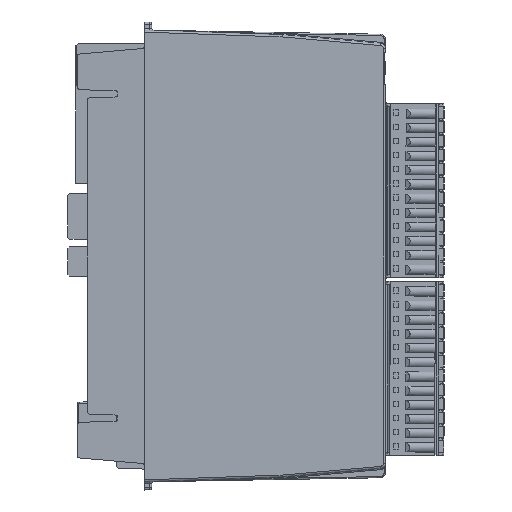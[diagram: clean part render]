
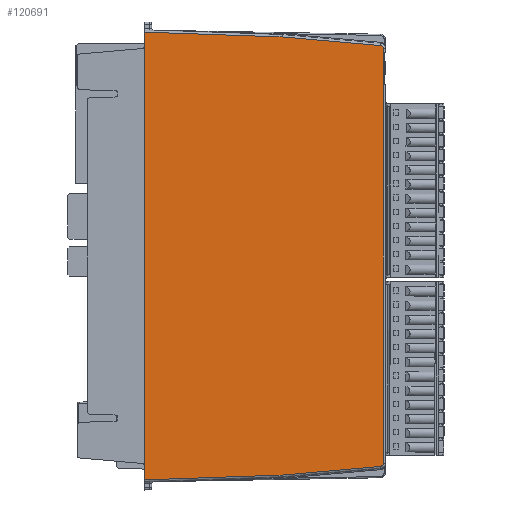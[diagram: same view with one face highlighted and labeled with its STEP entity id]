
A CAD part, left-side view. The second image highlights one B-rep face of the part: STEP entity #120691.
In plain terms, the highlighted planar face has unit normal (-1, -0.018, 0).
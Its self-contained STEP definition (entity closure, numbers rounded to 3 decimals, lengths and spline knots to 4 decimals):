
#993=ELLIPSE('',#128852,0.0315,0.0315);
#994=ELLIPSE('',#128853,0.0315,0.0315);
#5757=PLANE('',#128851);
#10806=FACE_OUTER_BOUND('',#17343,.T.);
#17343=EDGE_LOOP('',(#94478,#94479,#94480,#94481,#94482,#94483,#94484,#94485,
#94486,#94487));
#31890=LINE('',#188807,#44304);
#31891=LINE('',#188809,#44305);
#31892=LINE('',#188811,#44306);
#31893=LINE('',#188813,#44307);
#31894=LINE('',#188815,#44308);
#31895=LINE('',#188819,#44309);
#31896=LINE('',#188823,#44310);
#31897=LINE('',#188824,#44311);
#44304=VECTOR('',#150023,39.3701);
#44305=VECTOR('',#150024,39.3701);
#44306=VECTOR('',#150025,39.3701);
#44307=VECTOR('',#150026,39.3701);
#44308=VECTOR('',#150027,39.3701);
#44309=VECTOR('',#150030,39.3701);
#44310=VECTOR('',#150033,39.3701);
#44311=VECTOR('',#150034,39.3701);
#55584=VERTEX_POINT('',#188805);
#55585=VERTEX_POINT('',#188806);
#55586=VERTEX_POINT('',#188808);
#55587=VERTEX_POINT('',#188810);
#55588=VERTEX_POINT('',#188812);
#55589=VERTEX_POINT('',#188814);
#55590=VERTEX_POINT('',#188816);
#55591=VERTEX_POINT('',#188818);
#55592=VERTEX_POINT('',#188820);
#55593=VERTEX_POINT('',#188822);
#69465=EDGE_CURVE('',#55584,#55585,#31890,.T.);
#69466=EDGE_CURVE('',#55586,#55585,#31891,.T.);
#69467=EDGE_CURVE('',#55586,#55587,#31892,.T.);
#69468=EDGE_CURVE('',#55587,#55588,#31893,.T.);
#69469=EDGE_CURVE('',#55588,#55589,#31894,.T.);
#69470=EDGE_CURVE('',#55589,#55590,#993,.T.);
#69471=EDGE_CURVE('',#55590,#55591,#31895,.T.);
#69472=EDGE_CURVE('',#55591,#55592,#994,.T.);
#69473=EDGE_CURVE('',#55592,#55593,#31896,.T.);
#69474=EDGE_CURVE('',#55593,#55584,#31897,.T.);
#94478=ORIENTED_EDGE('',*,*,#69465,.T.);
#94479=ORIENTED_EDGE('',*,*,#69466,.F.);
#94480=ORIENTED_EDGE('',*,*,#69467,.T.);
#94481=ORIENTED_EDGE('',*,*,#69468,.T.);
#94482=ORIENTED_EDGE('',*,*,#69469,.T.);
#94483=ORIENTED_EDGE('',*,*,#69470,.T.);
#94484=ORIENTED_EDGE('',*,*,#69471,.T.);
#94485=ORIENTED_EDGE('',*,*,#69472,.T.);
#94486=ORIENTED_EDGE('',*,*,#69473,.T.);
#94487=ORIENTED_EDGE('',*,*,#69474,.T.);
#120691=ADVANCED_FACE('',(#10806),#5757,.T.);
#128851=AXIS2_PLACEMENT_3D('',#188804,#150021,#150022);
#128852=AXIS2_PLACEMENT_3D('',#188817,#150028,#150029);
#128853=AXIS2_PLACEMENT_3D('',#188821,#150031,#150032);
#150021=DIRECTION('center_axis',(-1.,-0.017,
0.));
#150022=DIRECTION('ref_axis',(-0.017,1.,0.));
#150023=DIRECTION('',(0.,0.,-1.));
#150024=DIRECTION('',(0.,0.,1.));
#150025=DIRECTION('',(0.,0.,-1.));
#150026=DIRECTION('',(0.017,-0.999,0.035));
#150027=DIRECTION('',(0.017,-0.996,0.087));
#150028=DIRECTION('center_axis',(-1.,-0.017,
0.));
#150029=DIRECTION('ref_axis',(0.017,-1.,0.));
#150030=DIRECTION('',(0.,0.,1.));
#150031=DIRECTION('center_axis',(-1.,-0.017,
0.));
#150032=DIRECTION('ref_axis',(0.017,-1.,0.));
#150033=DIRECTION('',(-0.017,0.996,0.087));
#150034=DIRECTION('',(-0.017,0.999,0.035));
#188804=CARTESIAN_POINT('Origin',(-0.0296,-0.489,
-2.0669));
#188805=CARTESIAN_POINT('',(-0.0227,-0.8827,0.1083));
#188806=CARTESIAN_POINT('',(-0.0227,-0.8827,-0.0312));
#188807=CARTESIAN_POINT('',(-0.0227,-0.8827,0.128));
#188808=CARTESIAN_POINT('',(-0.0227,-0.8827,-4.1027));
#188809=CARTESIAN_POINT('',(-0.0227,-0.8827,-7.5932));
#188810=CARTESIAN_POINT('',(-0.0227,-0.8827,-4.2421));
#188811=CARTESIAN_POINT('',(-0.0227,-0.8827,0.128));
#188812=CARTESIAN_POINT('',(0.0007,-2.2205,-4.1954));
#188813=CARTESIAN_POINT('',(-0.0282,-0.5654,-4.2532));
#188814=CARTESIAN_POINT('',(0.0174,-3.1772,-4.1117));
#188815=CARTESIAN_POINT('',(-0.0261,-0.6869,-4.3296));
#188816=CARTESIAN_POINT('',(0.0179,-3.2059,-4.0803));
#188817=CARTESIAN_POINT('Origin',(0.0173,-3.1744,
-4.0803));
#188818=CARTESIAN_POINT('',(0.0179,-3.2059,-0.0535));
#188819=CARTESIAN_POINT('',(0.0179,-3.2059,-0.0535));
#188820=CARTESIAN_POINT('',(0.0174,-3.1772,-0.0221));
#188821=CARTESIAN_POINT('Origin',(0.0173,-3.1744,
-0.0535));
#188822=CARTESIAN_POINT('',(0.0007,-2.2205,0.0616));
#188823=CARTESIAN_POINT('',(-0.0261,-0.6869,0.1957));
#188824=CARTESIAN_POINT('',(-0.0282,-0.5654,0.1194));
